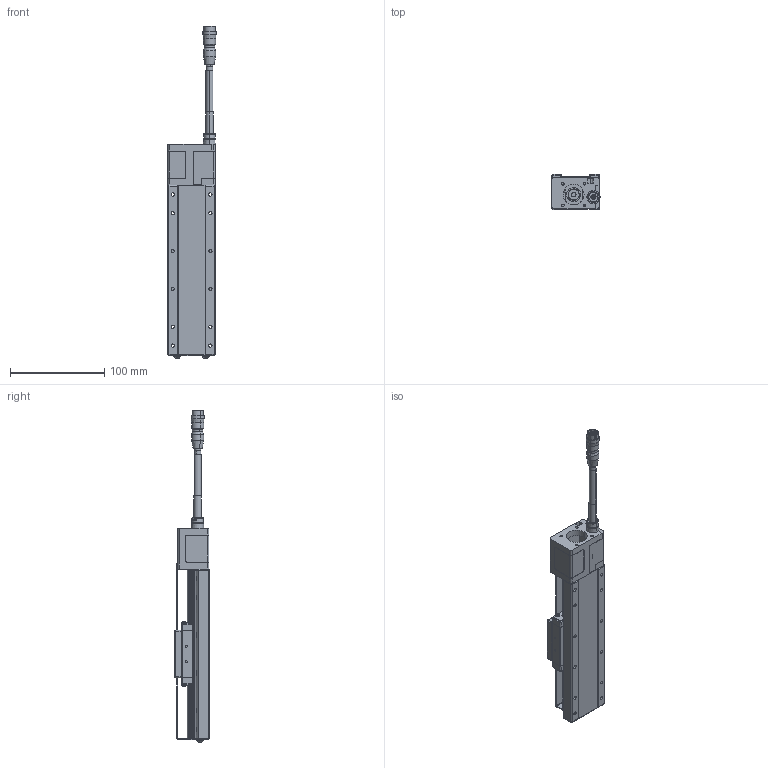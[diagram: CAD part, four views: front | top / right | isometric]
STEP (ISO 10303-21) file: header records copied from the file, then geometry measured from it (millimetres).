
FILE_DESCRIPTION (( 'STEP AP203' ), '1' );
FILE_NAME ('CXC50100-S2?N(28框無馬達).', '2024-01-05T03:01:57', ( '' ), ( '' ), 'SwSTEP 2.0', 'SolidWorks 2019', '' );
FILE_SCHEMA (( 'CONFIG_CONTROL_DESIGN' ));
Length unit declared in the file: millimetre
Products named in the file (9): SC03B008_SUS304(鍍鋅黑); SD04B006_SD04B006-SCM435(化鎳); HR10A-10J-12P_帶線示意; CXC50-102-10; Group1^CXC50100-S2?N(28框無馬達)_defeature_GMT; Group2^CXC50100-S2?N(28框無馬達)_defeature_GMT; CXC50100-S2OPAN-303_50; CXC50100-S2?N(28框無馬達); SG02B004_SCM435(化鎳)
Assembly tree (14 placements, depth 2):
  CXC50100-S2?N(28框無馬達)
    Group1^CXC50100-S2?N(28框無馬達)_defeature_GMT
    Group2^CXC50100-S2?N(28框無馬達)_defeature_GMT
    CXC50100-S2OPAN-303_50
    SD04B006_SD04B006-SCM435(化鎳)  x2
    CXC50-102-10  x2
    SC03B008_SUS304(鍍鋅黑)  x4
    SG02B004_SCM435(化鎳)  x2
    HR10A-10J-12P_帶線示意
Bounding box: 50.98 x 37 x 351.7 mm (x, y, z)
Volume: 48394.4 mm3; surface area: 104599.1 mm2
Topology: 16 solids, 22 shells, 3032 faces, 7650 edges, 4529 vertices
Faces by surface type: plane 1256, cylinder 950, cone 247, torus 224, bspline 183, sphere 172
Entity records: 90597 total; most frequent: CARTESIAN_POINT 22635, DIRECTION 14411, ORIENTED_EDGE 13896, EDGE_CURVE 6948, AXIS2_PLACEMENT_3D 5373, VERTEX_POINT 4207, VECTOR 3665, LINE 3665
